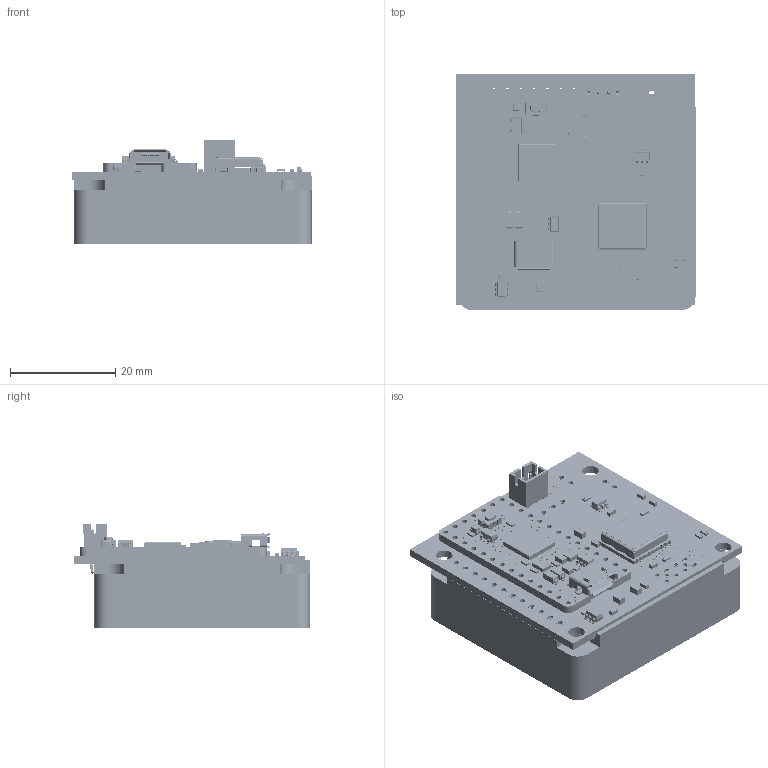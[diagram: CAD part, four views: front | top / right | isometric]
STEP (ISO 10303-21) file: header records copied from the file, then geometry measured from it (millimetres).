
FILE_DESCRIPTION(('KiCad electronic assembly'),'2;1');
FILE_NAME('BRB_SBD_ITSY_NOFLASH_B0.step','2026-08-30T15:36:43',('Pcbnew' ),('Kicad'),'Open CASCADE STEP processor 7.9', 'KiCad to STEP converter','Unknown');
FILE_SCHEMA(('AUTOMOTIVE_DESIGN { 1 0 10303 214 1 1 1 1 }'));
Length unit declared in the file: millimetre
Products named in the file (36): BRB_SBD_ITSY_NOFLASH_B0 1; C_0603_1608Metric; R_0603_1608Metric; C_0805_2012Metric; MAX-M10S-00B; SOT-23-6; 3727 Adafruit ItsyBitsy M0; Adafruit ItsyBitsy M0 v2; PCB Component; Board; 0805-NO; 0603-NO; CHIPLED_0805_NOOUTLINE; KMR2; 4UCONN_20329_V2; SOT23-5; TQFN48_7MM; SOT23-5 (1); SOD-123FL; APA102_2020; USON8; JST_PH_B2B-PH-K_1x02_P2.00mm_Vertical; JST_B2B_PH_K; 9602step; RockBLOCK_2_C053; BRB_SBD_ITSY_NOFLASH_B0_pad; BRB_SBD_ITSY_NOFLASH_B0_silkscreen; BRB_SBD_ITSY_NOFLASH_B0_soldermask; BRB_SBD_ITSY_NOFLASH_B0_PCB
Assembly tree (61 placements, depth 5):
  BRB_SBD_ITSY_NOFLASH_B0 1
    C_0603_1608Metric  x7
      C_0603_1608Metric
    R_0603_1608Metric  x10
      R_0603_1608Metric
    C_0805_2012Metric  x3
      C_0805_2012Metric
    MAX-M10S-00B
      MAX-M10S-00B
    SOT-23-6  x2
      SOT-23-6
    3727 Adafruit ItsyBitsy M0
      Adafruit ItsyBitsy M0 v2
        PCB Component
          Board
          0805-NO  x2
          0603-NO  x7
          CHIPLED_0805_NOOUTLINE
          KMR2
          4UCONN_20329_V2
          SOT23-5
          TQFN48_7MM
          SOT23-5 (1)
          SOD-123FL  x2
          APA102_2020
          USON8
    JST_PH_B2B-PH-K_1x02_P2.00mm_Vertical
      JST_B2B_PH_K
    9602step
      RockBLOCK_2_C053
    BRB_SBD_ITSY_NOFLASH_B0_pad
    BRB_SBD_ITSY_NOFLASH_B0_silkscreen
    BRB_SBD_ITSY_NOFLASH_B0_silkscreen
    BRB_SBD_ITSY_NOFLASH_B0_soldermask
    BRB_SBD_ITSY_NOFLASH_B0_soldermask
    BRB_SBD_ITSY_NOFLASH_B0_PCB
Bounding box: 45.53 x 44.86 x 19.75 mm (x, y, z)
Volume: 27917.6 mm3; surface area: 18644.6 mm2
Topology: 405 solids, 572 shells, 4866 faces, 15195 edges, 11291 vertices
Faces by surface type: plane 3485, cylinder 1315, bspline 50, torus 6, cone 6, sphere 4
Full cylindrical faces by diameter (mm): 0.3 x1, 0.394 x51, 0.7 x8, 0.75 x103, 0.788 x30, 0.8 x68, 0.838 x20, 0.966 x57, 1 x33, 1.016 x38, 1.346 x20, 1.524 x38, 1.6 x64, 3.175 x4
Entity records: 164367 total; most frequent: CARTESIAN_POINT 29219, DIRECTION 25126, ORIENTED_EDGE 22859, EDGE_CURVE 13344, VERTEX_POINT 10084, LINE 9796, VECTOR 9796, AXIS2_PLACEMENT_3D 7665
